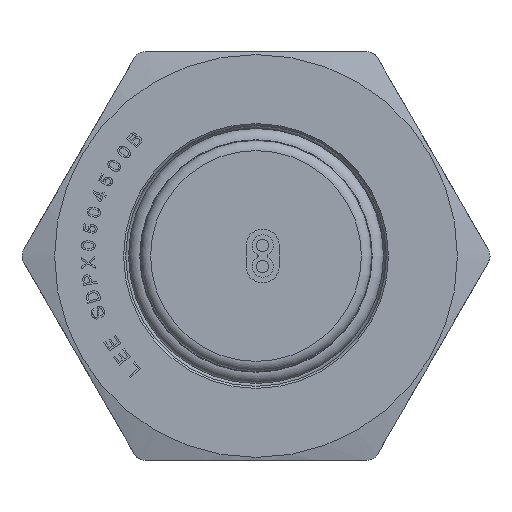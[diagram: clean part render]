
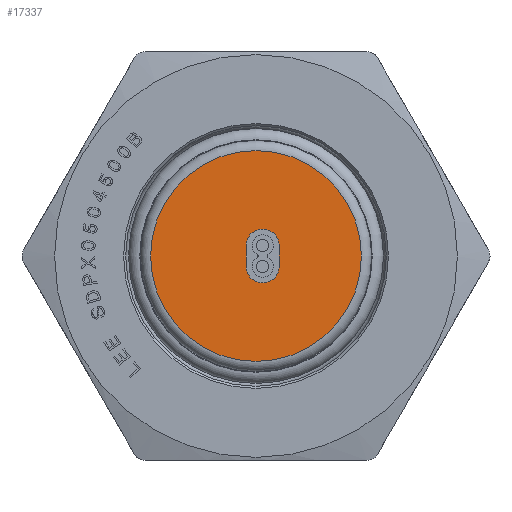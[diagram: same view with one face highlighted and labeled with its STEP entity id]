
A CAD part, left-side view. The second image highlights one B-rep face of the part: STEP entity #17337.
In plain terms, the highlighted planar face has unit normal (-1, 0, 0).
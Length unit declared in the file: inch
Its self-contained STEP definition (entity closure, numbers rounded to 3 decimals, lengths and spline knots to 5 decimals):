
#424 = AXIS2_PLACEMENT_3D ( 'NONE', #7189, #38072, #31597 ) ;
#2191 = AXIS2_PLACEMENT_3D ( 'NONE', #38523, #23166, #17879 ) ;
#3631 = CARTESIAN_POINT ( 'NONE',  ( -1.13, 0., 0. ) ) ;
#5285 = DIRECTION ( 'NONE',  ( 0., 0., 1. ) ) ;
#5811 = DIRECTION ( 'NONE',  ( 0., 0., -1. ) ) ;
#6112 = CIRCLE ( 'NONE', #21087, 0.0405 ) ;
#6863 = EDGE_LOOP ( 'NONE', ( #10870, #28970, #17649, #15177 ) ) ;
#7189 = CARTESIAN_POINT ( 'NONE',  ( -1.13, 0.129, 0. ) ) ;
#7931 = LINE ( 'NONE', #23861, #12693 ) ;
#8796 = CIRCLE ( 'NONE', #13364, 0.258 ) ;
#10768 = EDGE_CURVE ( 'NONE', #21012, #25320, #7931, .T. ) ;
#10870 = ORIENTED_EDGE ( 'NONE', *, *, #34692, .F. ) ;
#12693 = VECTOR ( 'NONE', #5285, 39.37008 ) ;
#12923 = PLANE ( 'NONE',  #424 ) ;
#13364 = AXIS2_PLACEMENT_3D ( 'NONE', #3631, #16079, #28439 ) ;
#13551 = FACE_BOUND ( 'NONE', #6863, .T. ) ;
#13603 = CARTESIAN_POINT ( 'NONE',  ( -1.13, 0.02424, -0.02548 ) ) ;
#13937 = EDGE_LOOP ( 'NONE', ( #31972 ) ) ;
#14546 = CARTESIAN_POINT ( 'NONE',  ( -1.13, -0.01626, -0.0255 ) ) ;
#14924 = EDGE_CURVE ( 'NONE', #21528, #21528, #8796, .T. ) ;
#15177 = ORIENTED_EDGE ( 'NONE', *, *, #10768, .T. ) ;
#16079 = DIRECTION ( 'NONE',  ( -1., 0., 0. ) ) ;
#17337 = ADVANCED_FACE ( 'NONE', ( #37659, #13551 ), #12923, .F. ) ;
#17649 = ORIENTED_EDGE ( 'NONE', *, *, #35133, .F. ) ;
#17879 = DIRECTION ( 'NONE',  ( 0., 0., -1. ) ) ;
#19609 = VERTEX_POINT ( 'NONE', #29867 ) ;
#21012 = VERTEX_POINT ( 'NONE', #13603 ) ;
#21087 = AXIS2_PLACEMENT_3D ( 'NONE', #14546, #26942, #39305 ) ;
#21238 = CARTESIAN_POINT ( 'NONE',  ( -1.13, 0.02424, 0.0255 ) ) ;
#21528 = VERTEX_POINT ( 'NONE', #30640 ) ;
#22367 = CIRCLE ( 'NONE', #2191, 0.0405 ) ;
#23166 = DIRECTION ( 'NONE',  ( -1., 0., 0. ) ) ;
#23861 = CARTESIAN_POINT ( 'NONE',  ( -1.13, 0.02424, 0. ) ) ;
#25320 = VERTEX_POINT ( 'NONE', #21238 ) ;
#26942 = DIRECTION ( 'NONE',  ( -1., 0., 0. ) ) ;
#27194 = CARTESIAN_POINT ( 'NONE',  ( -1.13, -0.05676, 0. ) ) ;
#27336 = CARTESIAN_POINT ( 'NONE',  ( -1.13, -0.05676, -0.0255 ) ) ;
#27352 = VECTOR ( 'NONE', #5811, 39.37008 ) ;
#28439 = DIRECTION ( 'NONE',  ( 0., 1., 0. ) ) ;
#28970 = ORIENTED_EDGE ( 'NONE', *, *, #28971, .T. ) ;
#28971 = EDGE_CURVE ( 'NONE', #19609, #29187, #40152, .T. ) ;
#29187 = VERTEX_POINT ( 'NONE', #27336 ) ;
#29867 = CARTESIAN_POINT ( 'NONE',  ( -1.13, -0.05676, 0.0255 ) ) ;
#30640 = CARTESIAN_POINT ( 'NONE',  ( -1.13, 0.258, 0. ) ) ;
#31597 = DIRECTION ( 'NONE',  ( 0., 1., 0. ) ) ;
#31972 = ORIENTED_EDGE ( 'NONE', *, *, #14924, .T. ) ;
#34692 = EDGE_CURVE ( 'NONE', #19609, #25320, #22367, .T. ) ;
#35133 = EDGE_CURVE ( 'NONE', #21012, #29187, #6112, .T. ) ;
#37659 = FACE_OUTER_BOUND ( 'NONE', #13937, .T. ) ;
#38072 = DIRECTION ( 'NONE',  ( 1., 0., 0. ) ) ;
#38523 = CARTESIAN_POINT ( 'NONE',  ( -1.13, -0.01626, 0.0255 ) ) ;
#39305 = DIRECTION ( 'NONE',  ( 0., 0., -1. ) ) ;
#40152 = LINE ( 'NONE', #27194, #27352 ) ;
